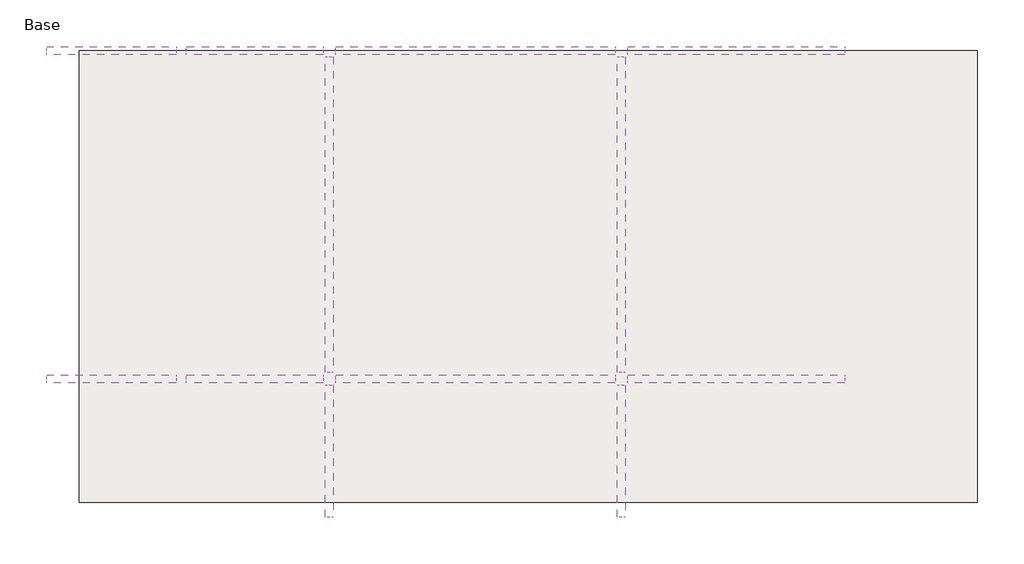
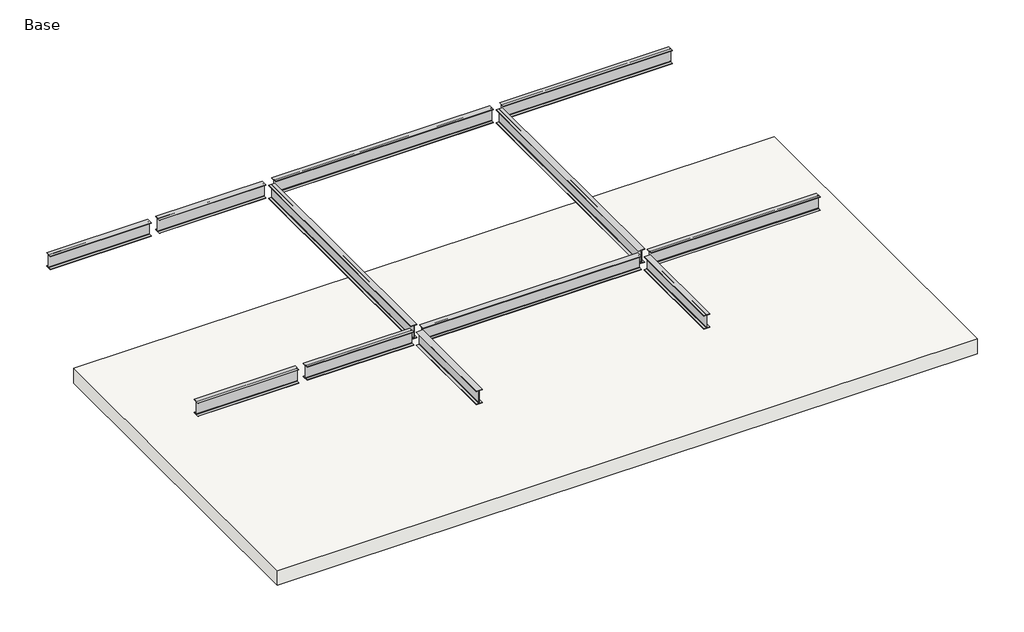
# One storey: 12 beams, 1 slab.
"""IFC4 building model written with IfcOpenShell, lengths in millimetres."""

from ifc_helpers import new_model, si_unit, point, frame, frame_2d, origin, place, context, project, spatial, polyline, circle_curve, trimmed, segment, composite_curve, outline, extrude, transform, mapped, element, save
from components import ub_universal_beams_ub406x178x60_065d8e95, ub_universal_beams_ub406x178x60_8dec86ff

model = new_model("IFC4")

# Units and contexts
model_context = context("Model", 3, world=origin())
ifc_project = project(units=[si_unit("LENGTHUNIT", "METRE", prefix="MILLI")], contexts=[model_context])

# Site, building, storey
site = spatial("IfcSite", under=ifc_project)
building = spatial("IfcBuilding", under=site)
storey = spatial("IfcBuildingStorey", under=building, Name="Base", Elevation=0.0)

# Beams
placement = place(None, origin())
element("IfcBeam", 1, ObjectType="UB-Universal Beams : UB406x178x60", at=placement, inside=storey, context=model_context, shape_type="SweptSolid", body=[
    extrude(outline(composite_curve([segment(polyline([(3006.4, 13035.7505584), (3006.4, 12960.9505584)]), True, "CONTINUOUS"), segment(trimmed(circle_curve(frame_2d((3016.6, 12960.9505584)), 10.2), [point((3006.4, 12960.9505584))], [point((3016.6, 12950.7505584))], True, "CARTESIAN"), True, "CONTINUOUS"), segment(polyline([(3016.6, 12950.7505584), (3377.0, 12950.7505584)]), True, "CONTINUOUS"), segment(trimmed(circle_curve(frame_2d((3377.0, 12960.9505584)), 10.2), [point((3377.0, 12950.7505584))], [point((3387.2, 12960.9505584))], True, "CARTESIAN"), True, "CONTINUOUS"), segment(polyline([(3387.2, 12960.9505584), (3387.2, 13035.7505584), (3400.0, 13035.7505584), (3400.0, 12857.8505584), (3387.2, 12857.8505584), (3387.2, 12932.6505584)]), True, "CONTINUOUS"), segment(trimmed(circle_curve(frame_2d((3377.0, 12932.6505584)), 10.2), [point((3387.2, 12932.6505584))], [point((3377.0, 12942.8505584))], True, "CARTESIAN"), True, "CONTINUOUS"), segment(polyline([(3377.0, 12942.8505584), (3016.6, 12942.8505584)]), True, "CONTINUOUS"), segment(trimmed(circle_curve(frame_2d((3016.6, 12932.6505584)), 10.2), [point((3016.6, 12942.8505584))], [point((3006.4, 12932.6505584))], True, "CARTESIAN"), True, "CONTINUOUS"), segment(polyline([(3006.4, 12932.6505584), (3006.4, 12857.8505584), (2993.6, 12857.8505584), (2993.6, 13035.7505584), (3006.4, 13035.7505584)]), True, "CONTINUOUS")], self_intersect=False)), frame((0.0, 22818.3386199, 0.0), z_axis=(0.0, 1.0, 0.0), x_axis=(0.0, 0.0, 1.0)), (0.0, 0.0, 1.0), 7035.6),
])
element("IfcBeam", 2, ObjectType="UB-Universal Beams : UB406x178x60", at=placement, inside=storey, context=model_context, shape_type="SweptSolid", body=[
    extrude(outline(composite_curve([segment(polyline([(3006.4, 19538.1505584), (3006.4, 19463.3505584)]), True, "CONTINUOUS"), segment(trimmed(circle_curve(frame_2d((3016.6, 19463.3505584)), 10.2), [point((3006.4, 19463.3505584))], [point((3016.6, 19453.1505584))], True, "CARTESIAN"), True, "CONTINUOUS"), segment(polyline([(3016.6, 19453.1505584), (3377.0, 19453.1505584)]), True, "CONTINUOUS"), segment(trimmed(circle_curve(frame_2d((3377.0, 19463.3505584)), 10.2), [point((3377.0, 19453.1505584))], [point((3387.2, 19463.3505584))], True, "CARTESIAN"), True, "CONTINUOUS"), segment(polyline([(3387.2, 19463.3505584), (3387.2, 19538.1505584), (3400.0, 19538.1505584), (3400.0, 19360.2505584), (3387.2, 19360.2505584), (3387.2, 19435.0505584)]), True, "CONTINUOUS"), segment(trimmed(circle_curve(frame_2d((3377.0, 19435.0505584)), 10.2), [point((3387.2, 19435.0505584))], [point((3377.0, 19445.2505584))], True, "CARTESIAN"), True, "CONTINUOUS"), segment(polyline([(3377.0, 19445.2505584), (3016.6, 19445.2505584)]), True, "CONTINUOUS"), segment(trimmed(circle_curve(frame_2d((3016.6, 19435.0505584)), 10.2), [point((3016.6, 19445.2505584))], [point((3006.4, 19435.0505584))], True, "CARTESIAN"), True, "CONTINUOUS"), segment(polyline([(3006.4, 19435.0505584), (3006.4, 19360.2505584), (2993.6, 19360.2505584), (2993.6, 19538.1505584), (3006.4, 19538.1505584)]), True, "CONTINUOUS")], self_intersect=False)), frame((0.0, 22818.3386199, 0.0), z_axis=(0.0, 1.0, 0.0), x_axis=(0.0, 0.0, 1.0)), (0.0, 0.0, 1.0), 7035.6),
])
element("IfcBeam", 3, ObjectType="UB-Universal Beams : UB406x178x60", at=placement, inside=storey, context=model_context, shape_type="SweptSolid", body=[
    extrude(outline(composite_curve([segment(polyline([(29904.7886199, 3006.4), (29979.5886199, 3006.4)]), True, "CONTINUOUS"), segment(trimmed(circle_curve(frame_2d((29979.5886199, 3016.6)), 10.2), [point((29979.5886199, 3006.4))], [point((29989.7886199, 3016.6))], True, "CARTESIAN"), True, "CONTINUOUS"), segment(polyline([(29989.7886199, 3016.6), (29989.7886199, 3377.0)]), True, "CONTINUOUS"), segment(trimmed(circle_curve(frame_2d((29979.5886199, 3377.0)), 10.2), [point((29989.7886199, 3377.0))], [point((29979.5886199, 3387.2))], True, "CARTESIAN"), True, "CONTINUOUS"), segment(polyline([(29979.5886199, 3387.2), (29904.7886199, 3387.2), (29904.7886199, 3400.0), (30082.6886199, 3400.0), (30082.6886199, 3387.2), (30007.8886199, 3387.2)]), True, "CONTINUOUS"), segment(trimmed(circle_curve(frame_2d((30007.8886199, 3377.0)), 10.2), [point((30007.8886199, 3387.2))], [point((29997.6886199, 3377.0))], True, "CARTESIAN"), True, "CONTINUOUS"), segment(polyline([(29997.6886199, 3377.0), (29997.6886199, 3016.6)]), True, "CONTINUOUS"), segment(trimmed(circle_curve(frame_2d((30007.8886199, 3016.6)), 10.2), [point((29997.6886199, 3016.6))], [point((30007.8886199, 3006.4))], True, "CARTESIAN"), True, "CONTINUOUS"), segment(polyline([(30007.8886199, 3006.4), (30082.6886199, 3006.4), (30082.6886199, 2993.6), (29904.7886199, 2993.6), (29904.7886199, 3006.4)]), True, "CONTINUOUS")], self_intersect=False)), frame((19589.250234, 0.0, 0.0), z_axis=(1.0, 0.0, 0.0), x_axis=(0.0, 1.0, 0.0)), (0.0, 0.0, 1.0), 4829.6),
])
element("IfcBeam", 4, ObjectType="UB-Universal Beams : UB406x178x60", at=placement, inside=storey, context=model_context, shape_type="SweptSolid", body=[
    extrude(outline(composite_curve([segment(polyline([(29904.7886199, 3006.4), (29979.5886199, 3006.4)]), True, "CONTINUOUS"), segment(trimmed(circle_curve(frame_2d((29979.5886199, 3016.6)), 10.2), [point((29979.5886199, 3006.4))], [point((29989.7886199, 3016.6))], True, "CARTESIAN"), True, "CONTINUOUS"), segment(polyline([(29989.7886199, 3016.6), (29989.7886199, 3377.0)]), True, "CONTINUOUS"), segment(trimmed(circle_curve(frame_2d((29979.5886199, 3377.0)), 10.2), [point((29989.7886199, 3377.0))], [point((29979.5886199, 3387.2))], True, "CARTESIAN"), True, "CONTINUOUS"), segment(polyline([(29979.5886199, 3387.2), (29904.7886199, 3387.2), (29904.7886199, 3400.0), (30082.6886199, 3400.0), (30082.6886199, 3387.2), (30007.8886199, 3387.2)]), True, "CONTINUOUS"), segment(trimmed(circle_curve(frame_2d((30007.8886199, 3377.0)), 10.2), [point((30007.8886199, 3387.2))], [point((29997.6886199, 3377.0))], True, "CARTESIAN"), True, "CONTINUOUS"), segment(polyline([(29997.6886199, 3377.0), (29997.6886199, 3016.6)]), True, "CONTINUOUS"), segment(trimmed(circle_curve(frame_2d((30007.8886199, 3016.6)), 10.2), [point((29997.6886199, 3016.6))], [point((30007.8886199, 3006.4))], True, "CARTESIAN"), True, "CONTINUOUS"), segment(polyline([(30007.8886199, 3006.4), (30082.6886199, 3006.4), (30082.6886199, 2993.6), (29904.7886199, 2993.6), (29904.7886199, 3006.4)]), True, "CONTINUOUS")], self_intersect=False)), frame((13086.8005584, 0.0, 0.0), z_axis=(1.0, 0.0, 0.0), x_axis=(0.0, 1.0, 0.0)), (0.0, 0.0, 1.0), 6222.4),
])
element("IfcBeam", 5, ObjectType="UB-Universal Beams : UB406x178x60", at=placement, inside=storey, context=model_context, shape_type="SweptSolid", body=[
    extrude(outline(composite_curve([segment(polyline([(22589.5886199, 3006.4), (22664.3886199, 3006.4)]), True, "CONTINUOUS"), segment(trimmed(circle_curve(frame_2d((22664.3886199, 3016.6)), 10.2), [point((22664.3886199, 3006.4))], [point((22674.5886199, 3016.6))], True, "CARTESIAN"), True, "CONTINUOUS"), segment(polyline([(22674.5886199, 3016.6), (22674.5886199, 3377.0)]), True, "CONTINUOUS"), segment(trimmed(circle_curve(frame_2d((22664.3886199, 3377.0)), 10.2), [point((22674.5886199, 3377.0))], [point((22664.3886199, 3387.2))], True, "CARTESIAN"), True, "CONTINUOUS"), segment(polyline([(22664.3886199, 3387.2), (22589.5886199, 3387.2), (22589.5886199, 3400.0), (22767.4886199, 3400.0), (22767.4886199, 3387.2), (22692.6886199, 3387.2)]), True, "CONTINUOUS"), segment(trimmed(circle_curve(frame_2d((22692.6886199, 3377.0)), 10.2), [point((22692.6886199, 3387.2))], [point((22682.4886199, 3377.0))], True, "CARTESIAN"), True, "CONTINUOUS"), segment(polyline([(22682.4886199, 3377.0), (22682.4886199, 3016.6)]), True, "CONTINUOUS"), segment(trimmed(circle_curve(frame_2d((22692.6886199, 3016.6)), 10.2), [point((22682.4886199, 3016.6))], [point((22692.6886199, 3006.4))], True, "CARTESIAN"), True, "CONTINUOUS"), segment(polyline([(22692.6886199, 3006.4), (22767.4886199, 3006.4), (22767.4886199, 2993.6), (22589.5886199, 2993.6), (22589.5886199, 3006.4)]), True, "CONTINUOUS")], self_intersect=False)), frame((19589.250234, 0.0, 0.0), z_axis=(1.0, 0.0, 0.0), x_axis=(0.0, 1.0, 0.0)), (0.0, 0.0, 1.0), 4829.6),
])
element("IfcBeam", 6, ObjectType="UB-Universal Beams : UB406x178x60", at=placement, inside=storey, context=model_context, shape_type="SweptSolid", body=[
    extrude(outline(composite_curve([segment(polyline([(22589.5886199, 3006.4), (22664.3886199, 3006.4)]), True, "CONTINUOUS"), segment(trimmed(circle_curve(frame_2d((22664.3886199, 3016.6)), 10.2), [point((22664.3886199, 3006.4))], [point((22674.5886199, 3016.6))], True, "CARTESIAN"), True, "CONTINUOUS"), segment(polyline([(22674.5886199, 3016.6), (22674.5886199, 3377.0)]), True, "CONTINUOUS"), segment(trimmed(circle_curve(frame_2d((22664.3886199, 3377.0)), 10.2), [point((22674.5886199, 3377.0))], [point((22664.3886199, 3387.2))], True, "CARTESIAN"), True, "CONTINUOUS"), segment(polyline([(22664.3886199, 3387.2), (22589.5886199, 3387.2), (22589.5886199, 3400.0), (22767.4886199, 3400.0), (22767.4886199, 3387.2), (22692.6886199, 3387.2)]), True, "CONTINUOUS"), segment(trimmed(circle_curve(frame_2d((22692.6886199, 3377.0)), 10.2), [point((22692.6886199, 3387.2))], [point((22682.4886199, 3377.0))], True, "CARTESIAN"), True, "CONTINUOUS"), segment(polyline([(22682.4886199, 3377.0), (22682.4886199, 3016.6)]), True, "CONTINUOUS"), segment(trimmed(circle_curve(frame_2d((22692.6886199, 3016.6)), 10.2), [point((22682.4886199, 3016.6))], [point((22692.6886199, 3006.4))], True, "CARTESIAN"), True, "CONTINUOUS"), segment(polyline([(22692.6886199, 3006.4), (22767.4886199, 3006.4), (22767.4886199, 2993.6), (22589.5886199, 2993.6), (22589.5886199, 3006.4)]), True, "CONTINUOUS")], self_intersect=False)), frame((13086.8005584, 0.0, 0.0), z_axis=(1.0, 0.0, 0.0), x_axis=(0.0, 1.0, 0.0)), (0.0, 0.0, 1.0), 6222.4),
])
element("IfcBeam", 7, ObjectType="UB-Universal Beams : UB406x178x60", at=placement, inside=storey, context=model_context, shape_type="SweptSolid", body=[
    extrude(outline(composite_curve([segment(polyline([(3006.4, 13035.7505584), (3006.4, 12960.9505584)]), True, "CONTINUOUS"), segment(trimmed(circle_curve(frame_2d((3016.6, 12960.9505584)), 10.2), [point((3006.4, 12960.9505584))], [point((3016.6, 12950.7505584))], True, "CARTESIAN"), True, "CONTINUOUS"), segment(polyline([(3016.6, 12950.7505584), (3377.0, 12950.7505584)]), True, "CONTINUOUS"), segment(trimmed(circle_curve(frame_2d((3377.0, 12960.9505584)), 10.2), [point((3377.0, 12950.7505584))], [point((3387.2, 12960.9505584))], True, "CARTESIAN"), True, "CONTINUOUS"), segment(polyline([(3387.2, 12960.9505584), (3387.2, 13035.7505584), (3400.0, 13035.7505584), (3400.0, 12857.8505584), (3387.2, 12857.8505584), (3387.2, 12932.6505584)]), True, "CONTINUOUS"), segment(trimmed(circle_curve(frame_2d((3377.0, 12932.6505584)), 10.2), [point((3387.2, 12932.6505584))], [point((3377.0, 12942.8505584))], True, "CARTESIAN"), True, "CONTINUOUS"), segment(polyline([(3377.0, 12942.8505584), (3016.6, 12942.8505584)]), True, "CONTINUOUS"), segment(trimmed(circle_curve(frame_2d((3016.6, 12932.6505584)), 10.2), [point((3016.6, 12942.8505584))], [point((3006.4, 12932.6505584))], True, "CARTESIAN"), True, "CONTINUOUS"), segment(polyline([(3006.4, 12932.6505584), (3006.4, 12857.8505584), (2993.6, 12857.8505584), (2993.6, 13035.7505584), (3006.4, 13035.7505584)]), True, "CONTINUOUS")], self_intersect=False)), frame((0.0, 19589.3386199, 0.0), z_axis=(0.0, 1.0, 0.0), x_axis=(0.0, 0.0, 1.0)), (0.0, 0.0, 1.0), 2949.4),
])
element("IfcBeam", 8, ObjectType="UB-Universal Beams : UB406x178x60", at=placement, inside=storey, context=model_context, shape_type="SweptSolid", body=[
    extrude(outline(composite_curve([segment(polyline([(3006.4, 19538.1505584), (3006.4, 19463.3505584)]), True, "CONTINUOUS"), segment(trimmed(circle_curve(frame_2d((3016.6, 19463.3505584)), 10.2), [point((3006.4, 19463.3505584))], [point((3016.6, 19453.1505584))], True, "CARTESIAN"), True, "CONTINUOUS"), segment(polyline([(3016.6, 19453.1505584), (3377.0, 19453.1505584)]), True, "CONTINUOUS"), segment(trimmed(circle_curve(frame_2d((3377.0, 19463.3505584)), 10.2), [point((3377.0, 19453.1505584))], [point((3387.2, 19463.3505584))], True, "CARTESIAN"), True, "CONTINUOUS"), segment(polyline([(3387.2, 19463.3505584), (3387.2, 19538.1505584), (3400.0, 19538.1505584), (3400.0, 19360.2505584), (3387.2, 19360.2505584), (3387.2, 19435.0505584)]), True, "CONTINUOUS"), segment(trimmed(circle_curve(frame_2d((3377.0, 19435.0505584)), 10.2), [point((3387.2, 19435.0505584))], [point((3377.0, 19445.2505584))], True, "CARTESIAN"), True, "CONTINUOUS"), segment(polyline([(3377.0, 19445.2505584), (3016.6, 19445.2505584)]), True, "CONTINUOUS"), segment(trimmed(circle_curve(frame_2d((3016.6, 19435.0505584)), 10.2), [point((3016.6, 19445.2505584))], [point((3006.4, 19435.0505584))], True, "CARTESIAN"), True, "CONTINUOUS"), segment(polyline([(3006.4, 19435.0505584), (3006.4, 19360.2505584), (2993.6, 19360.2505584), (2993.6, 19538.1505584), (3006.4, 19538.1505584)]), True, "CONTINUOUS")], self_intersect=False)), frame((0.0, 19589.3386199, 0.0), z_axis=(0.0, 1.0, 0.0), x_axis=(0.0, 0.0, 1.0)), (0.0, 0.0, 1.0), 2949.4),
])
ub_universal_beams_ub406x178x60_shape = ub_universal_beams_ub406x178x60_065d8e95(model_context)
element("IfcBeam", 9, ObjectType="UB-Universal Beams : UB406x178x60", at=placement, inside=storey, context=model_context, shape_type="MappedRepresentation", body=[
    mapped(ub_universal_beams_ub406x178x60_shape, transform((11297.2005584, 29993.7386199, 3196.8), x_axis=(-1.0, 0.0, 0.0), y_axis=(0.0, -1.0, 0.0), z_axis=(0.0, 0.0, 1.0))),
])
element("IfcBeam", 10, ObjectType="UB-Universal Beams : UB406x178x60", at=placement, inside=storey, context=model_context, shape_type="MappedRepresentation", body=[
    mapped(ub_universal_beams_ub406x178x60_shape, transform((11297.2005584, 22678.5386199, 3196.8), x_axis=(-1.0, 0.0, 0.0), y_axis=(0.0, -1.0, 0.0), z_axis=(0.0, 0.0, 1.0))),
])
ub_universal_beams_ub406x178x60_2_shape = ub_universal_beams_ub406x178x60_8dec86ff(model_context)
element("IfcBeam", 11, ObjectType="UB-Universal Beams : UB406x178x60", at=placement, inside=storey, context=model_context, shape_type="MappedRepresentation", body=[
    mapped(ub_universal_beams_ub406x178x60_2_shape, transform((8147.6005584, 29993.7386199, 3196.8), x_axis=(-1.0, 0.0, 0.0), y_axis=(0.0, -1.0, 0.0), z_axis=(0.0, 0.0, 1.0))),
])
element("IfcBeam", 12, ObjectType="UB-Universal Beams : UB406x178x60", at=placement, inside=storey, context=model_context, shape_type="MappedRepresentation", body=[
    mapped(ub_universal_beams_ub406x178x60_2_shape, transform((8147.6005584, 22678.5386199, 3196.8), x_axis=(-1.0, 0.0, 0.0), y_axis=(0.0, -1.0, 0.0), z_axis=(0.0, 0.0, 1.0))),
])

# Slab
element("IfcSlab", 13, ObjectType="Generic 450mm", at=placement, inside=storey, context=model_context, shape_type="SweptSolid", body=[
    extrude(outline(polyline([(27377.6005584, 29993.7386199), (27377.6005584, 19927.3386199), (7377.6005584, 19927.3386199), (7377.6005584, 29993.7386199), (27377.6005584, 29993.7386199)])), frame((0.0, 0.0, -750.0), z_axis=(0.0, 0.0, 1.0), x_axis=(1.0, 0.0, 0.0)), (0.0, 0.0, 1.0), 450.0),
])

save(model, "model.ifc")
